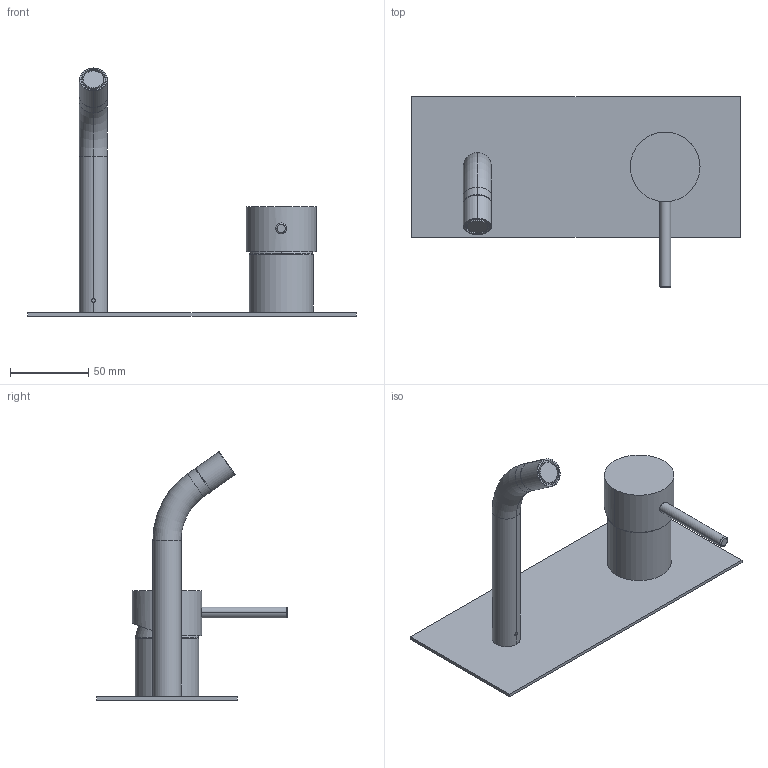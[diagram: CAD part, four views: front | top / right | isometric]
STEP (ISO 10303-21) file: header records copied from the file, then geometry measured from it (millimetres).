
FILE_DESCRIPTION((''),'2;1');
FILE_NAME('F3051X5_FILE_3D','2016-02-02T',('ivanv'),(''),'CREO PARAMETRIC BY PTC INC, 2015290','CREO PARAMETRIC BY PTC INC, 2015290','');
FILE_SCHEMA(('CONFIG_CONTROL_DESIGN'));
Length unit declared in the file: millimetre
Products named in the file (1): F3051X5_FILE_3D
Bounding box: 210 x 122 x 158.57 mm (x, y, z)
Volume: 86355 mm3; surface area: 79552 mm2
Topology: 3 solids, 3 shells, 445 faces, 1166 edges, 748 vertices
Faces by surface type: plane 317, cylinder 56, cone 34, torus 34, bspline 4
Entity records: 14053 total; most frequent: CARTESIAN_POINT 2972, ORIENTED_EDGE 2324, DIRECTION 2222, EDGE_CURVE 1162, VECTOR 920, LINE 920, VERTEX_POINT 748, AXIS2_PLACEMENT_3D 651
